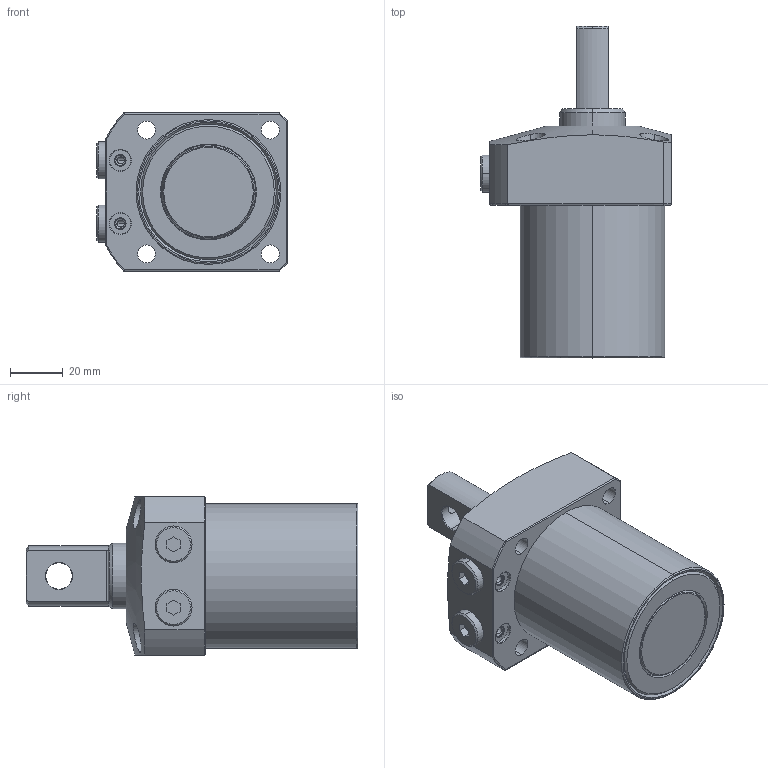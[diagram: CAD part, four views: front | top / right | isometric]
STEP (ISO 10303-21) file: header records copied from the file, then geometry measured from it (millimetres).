
FILE_DESCRIPTION (( 'STEP AP203' ), '1' );
FILE_NAME ('20450-CL-P.step', '2019-06-24T03:10:52', ( '微软用户' ), ( '微软中国' ), 'SwSTEP 2.0', 'SolidWorks 2014', '' );
FILE_SCHEMA (( 'CONFIG_CONTROL_DESIGN' ));
Length unit declared in the file: millimetre
Products named in the file (5): 20450-C-P-4^20450-CL-P; 20450-CL-P; 20450-C-P-1^20450-CL-P; 20450-C-P-2^20450-CL-P; 20450-C-P-3^20450-CL-P
Assembly tree (5 placements, depth 2):
  20450-CL-P
    20450-C-P-1^20450-CL-P
    20450-C-P-2^20450-CL-P
    20450-C-P-3^20450-CL-P
    20450-C-P-4^20450-CL-P  x2
Bounding box: 72.5 x 126 x 60 mm (x, y, z)
Volume: 263815.3 mm3; surface area: 37374.3 mm2
Topology: 5 solids, 5 shells, 171 faces, 397 edges, 249 vertices
Faces by surface type: cylinder 67, plane 51, cone 41, torus 12
Entity records: 5727 total; most frequent: CARTESIAN_POINT 1506, DIRECTION 814, ORIENTED_EDGE 738, EDGE_CURVE 369, AXIS2_PLACEMENT_3D 337, VERTEX_POINT 231, EDGE_LOOP 186, CIRCLE 171
